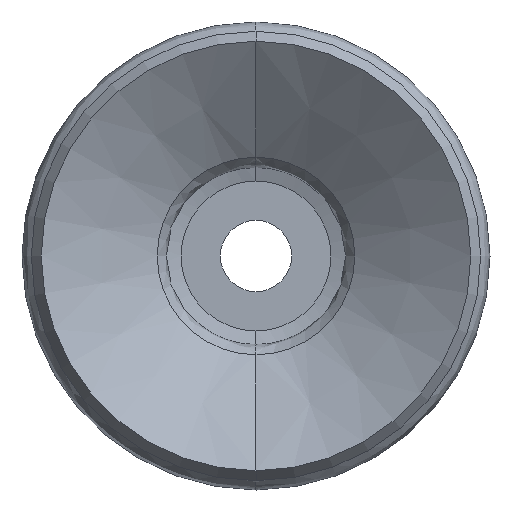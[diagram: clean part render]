
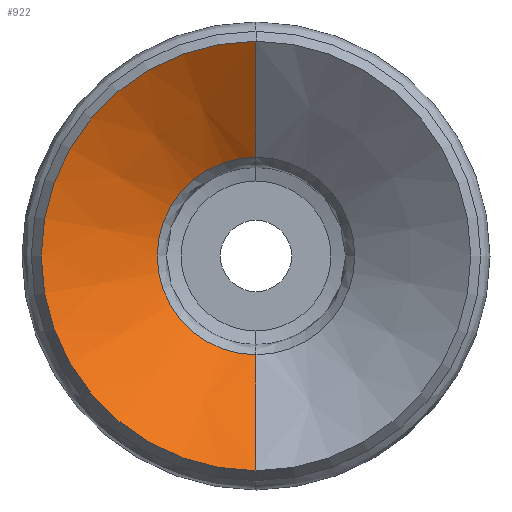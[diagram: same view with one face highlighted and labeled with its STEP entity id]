
A CAD part, front view. The second image highlights one B-rep face of the part: STEP entity #922.
In plain terms, the highlighted conical face has half-angle 53.953 degrees and reference radius 5.276 mm.
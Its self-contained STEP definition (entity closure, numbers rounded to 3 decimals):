
#37 = ORIENTED_EDGE ( 'NONE', *, *, #761, .T. ) ;
#40 = DIRECTION ( 'NONE',  ( 0., -0.588, -0.809 ) ) ;
#91 = VECTOR ( 'NONE', #581, 1000. ) ;
#98 = AXIS2_PLACEMENT_3D ( 'NONE', #112, #1078, #337 ) ;
#112 = CARTESIAN_POINT ( 'NONE',  ( 0., -23., 0. ) ) ;
#213 = AXIS2_PLACEMENT_3D ( 'NONE', #583, #214, #1036 ) ;
#214 = DIRECTION ( 'NONE',  ( 0., -1., 0. ) ) ;
#227 = ORIENTED_EDGE ( 'NONE', *, *, #248, .T. ) ;
#243 = CARTESIAN_POINT ( 'NONE',  ( 0., -18.492, -5.276 ) ) ;
#248 = EDGE_CURVE ( 'NONE', #530, #873, #981, .T. ) ;
#308 = EDGE_LOOP ( 'NONE', ( #37, #227, #667, #466 ) ) ;
#337 = DIRECTION ( 'NONE',  ( 0., 0., 1. ) ) ;
#466 = ORIENTED_EDGE ( 'NONE', *, *, #1037, .F. ) ;
#491 = EDGE_CURVE ( 'NONE', #873, #577, #632, .T. ) ;
#530 = VERTEX_POINT ( 'NONE', #1070 ) ;
#571 = VERTEX_POINT ( 'NONE', #243 ) ;
#577 = VERTEX_POINT ( 'NONE', #973 ) ;
#581 = DIRECTION ( 'NONE',  ( 0., -0.588, 0.809 ) ) ;
#583 = CARTESIAN_POINT ( 'NONE',  ( 0., -18.492, 0. ) ) ;
#600 = VECTOR ( 'NONE', #40, 1000. ) ;
#632 = CIRCLE ( 'NONE', #98, 11.47 ) ;
#634 = CARTESIAN_POINT ( 'NONE',  ( 0., -23., 11.47 ) ) ;
#667 = ORIENTED_EDGE ( 'NONE', *, *, #491, .T. ) ;
#698 = CONICAL_SURFACE ( 'NONE', #213, 5.276, 0.942 ) ;
#761 = EDGE_CURVE ( 'NONE', #571, #530, #907, .T. ) ;
#763 = FACE_OUTER_BOUND ( 'NONE', #308, .T. ) ;
#788 = LINE ( 'NONE', #1006, #600 ) ;
#842 = AXIS2_PLACEMENT_3D ( 'NONE', #1054, #1047, #910 ) ;
#873 = VERTEX_POINT ( 'NONE', #634 ) ;
#907 = CIRCLE ( 'NONE', #842, 5.276 ) ;
#910 = DIRECTION ( 'NONE',  ( 0., 0., -1. ) ) ;
#922 = ADVANCED_FACE ( 'NONE', ( #763 ), #698, .F. ) ;
#973 = CARTESIAN_POINT ( 'NONE',  ( 0., -23., -11.47 ) ) ;
#981 = LINE ( 'NONE', #1110, #91 ) ;
#1006 = CARTESIAN_POINT ( 'NONE',  ( 0., -18.492, -5.276 ) ) ;
#1036 = DIRECTION ( 'NONE',  ( 0., 0., -1. ) ) ;
#1037 = EDGE_CURVE ( 'NONE', #571, #577, #788, .T. ) ;
#1047 = DIRECTION ( 'NONE',  ( 0., 1., 0. ) ) ;
#1054 = CARTESIAN_POINT ( 'NONE',  ( 0., -18.492, 0. ) ) ;
#1070 = CARTESIAN_POINT ( 'NONE',  ( 0., -18.492, 5.276 ) ) ;
#1078 = DIRECTION ( 'NONE',  ( 0., -1., 0. ) ) ;
#1110 = CARTESIAN_POINT ( 'NONE',  ( 0., -18.492, 5.276 ) ) ;
